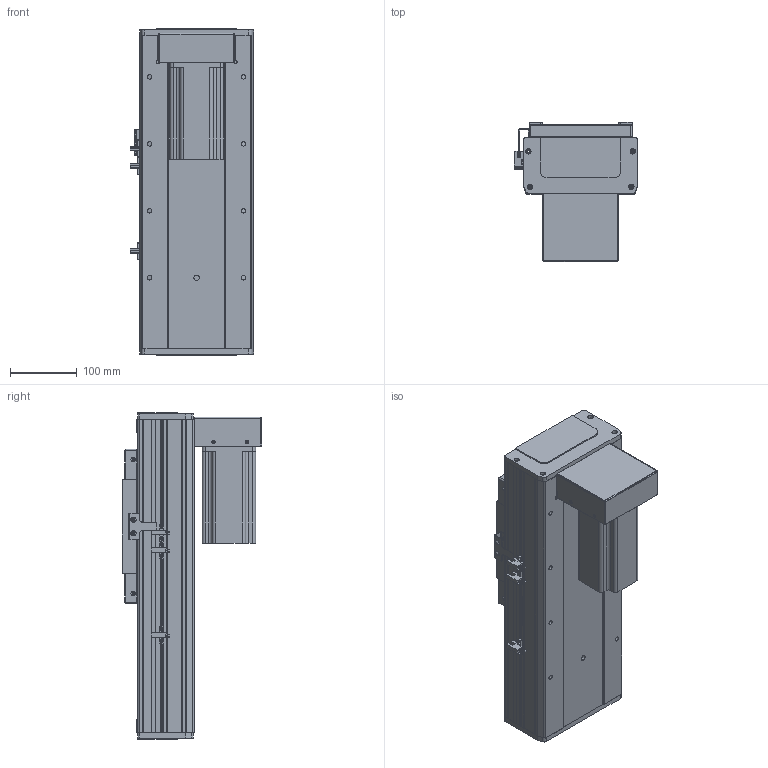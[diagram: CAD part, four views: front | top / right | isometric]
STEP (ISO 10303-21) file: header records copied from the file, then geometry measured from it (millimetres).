
FILE_DESCRIPTION (( 'STEP AP203' ), '1' );
FILE_NAME ('RY170F-L2010-300-BK.SLDASM_150.step', '2021-03-02T08:55:37', ( '盈信电脑' ), ( '东莞市道滘镇水果街19号' ), 'SwSTEP 2.0', 'SolidWorks 2012', '' );
FILE_SCHEMA (( 'CONFIG_CONTROL_DESIGN' ));
Length unit declared in the file: millimetre
Products named in the file (20): RY170狟殏詩湍假蚾輸; RY170F狟殏萇儂欶; RY170F-L2010-300-BK.SLDASM_150; 滅袉蝶18-24; RY170F-狟殏萇儂假蚾啣(750W); 侐源滅袉蝶; 怢湛750W萇儂ㄗ80遺ㄘ; RY170F俋离覜茼え; RY170F-詩湍揤踡輸; RY170F-揤踡謫假蚾粣; 覜茼ん672; 滅袉蝶18-10; RY170F-綴裔啣; RY100F-詩湍揤踡謫; RY170F-佪裝臏賑輸20蹟譫; RY170F-滅鳥奻裔; RY170F-300眻蟀倰第菁釱-BK_150; RY170F-丝杆铝滑块连接板; RY170F-300眻蟀倰第奻裔啣-BK_150; RY170F-300眻蟀祥凄詩湍-MK_150
Assembly tree (25 placements, depth 2):
  RY170F-L2010-300-BK.SLDASM_150
    RY170F-300眻蟀祥凄詩湍-MK_150
    RY170F-300眻蟀倰第奻裔啣-BK_150  x2
    RY170F-滅鳥奻裔
    RY170F-300眻蟀倰第菁釱-BK_150
    RY170F-佪裝臏賑輸20蹟譫
    RY170F-丝杆铝滑块连接板
    滅袉蝶18-10
    RY100F-詩湍揤踡謫
    RY170F-綴裔啣  x2
    覜茼ん672  x3
    RY170F俋离覜茼え
    RY170F-揤踡謫假蚾粣
    RY170F-詩湍揤踡輸  x2
    滅袉蝶18-24
    侐源滅袉蝶  x2
    RY170F-狟殏萇儂假蚾啣(750W)
    怢湛750W萇儂ㄗ80遺ㄘ
    RY170F狟殏萇儂欶
    RY170狟殏詩湍假蚾輸
Bounding box: 183.7 x 208 x 488 mm (x, y, z)
Volume: 4052660.4 mm3; surface area: 1203178.2 mm2
Topology: 25 solids, 25 shells, 1754 faces, 4865 edges, 3110 vertices
Faces by surface type: cylinder 820, plane 762, cone 168, bspline 4
Entity records: 48936 total; most frequent: CARTESIAN_POINT 9858, DIRECTION 7866, ORIENTED_EDGE 7550, EDGE_CURVE 3775, AXIS2_PLACEMENT_3D 2814, VERTEX_POINT 2466, VECTOR 2238, LINE 2238
